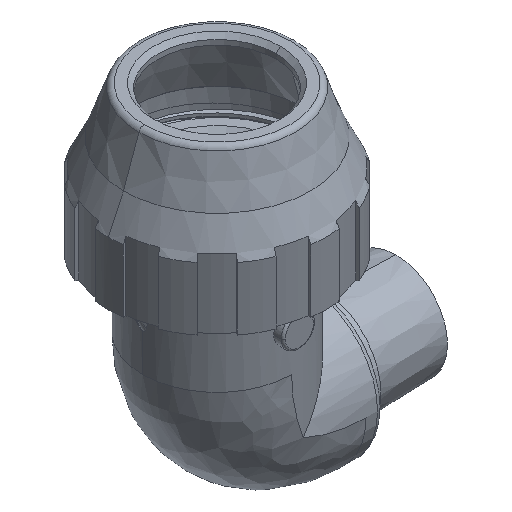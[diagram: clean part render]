
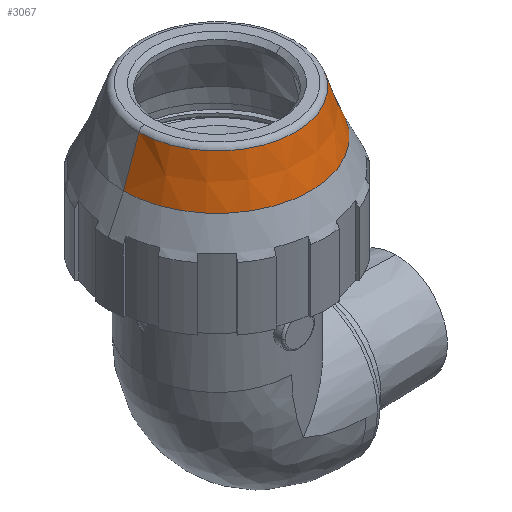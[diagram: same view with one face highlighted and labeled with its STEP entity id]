
A CAD part, isometric view. The second image highlights one B-rep face of the part: STEP entity #3067.
In plain terms, the highlighted conical face has half-angle 19.587 degrees and reference radius 13.423 mm.
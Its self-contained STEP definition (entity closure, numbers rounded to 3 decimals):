
#508 = DIRECTION ( 'NONE',  ( 0.335, 0., -0.942 ) ) ;
#589 = FACE_OUTER_BOUND ( 'NONE', #2539, .T. ) ;
#663 = DIRECTION ( 'NONE',  ( -1., 0., 0. ) ) ;
#732 = VECTOR ( 'NONE', #5536, 1000. ) ;
#1142 = ORIENTED_EDGE ( 'NONE', *, *, #5032, .T. ) ;
#1252 = CARTESIAN_POINT ( 'NONE',  ( 13.423, 0., 24.828 ) ) ;
#1352 = DIRECTION ( 'NONE',  ( 0., 0., 1. ) ) ;
#1371 = CONICAL_SURFACE ( 'NONE', #6494, 13.423, 0.342 ) ;
#1982 = EDGE_CURVE ( 'NONE', #3050, #2395, #4820, .T. ) ;
#2395 = VERTEX_POINT ( 'NONE', #3778 ) ;
#2539 = EDGE_LOOP ( 'NONE', ( #8376, #6263, #7128, #1142 ) ) ;
#2598 = VECTOR ( 'NONE', #508, 1000. ) ;
#2806 = CARTESIAN_POINT ( 'NONE',  ( -13.659, 0., 24.163 ) ) ;
#3050 = VERTEX_POINT ( 'NONE', #2806 ) ;
#3067 = ADVANCED_FACE ( 'NONE', ( #589 ), #1371, .T. ) ;
#3222 = CARTESIAN_POINT ( 'NONE',  ( 16.34, 0., 16.63 ) ) ;
#3409 = CARTESIAN_POINT ( 'NONE',  ( -13.423, 0., 24.828 ) ) ;
#3778 = CARTESIAN_POINT ( 'NONE',  ( -16.34, 0., 16.63 ) ) ;
#4209 = CARTESIAN_POINT ( 'NONE',  ( 0., 0., 24.163 ) ) ;
#4276 = DIRECTION ( 'NONE',  ( 0., 0., -1. ) ) ;
#4820 = LINE ( 'NONE', #3409, #732 ) ;
#4939 = DIRECTION ( 'NONE',  ( 1., 0., 0. ) ) ;
#5032 = EDGE_CURVE ( 'NONE', #2395, #6030, #8466, .T. ) ;
#5257 = CIRCLE ( 'NONE', #6974, 13.659 ) ;
#5526 = VERTEX_POINT ( 'NONE', #8861 ) ;
#5536 = DIRECTION ( 'NONE',  ( -0.335, 0., -0.942 ) ) ;
#5662 = CARTESIAN_POINT ( 'NONE',  ( 0., 0., 16.63 ) ) ;
#5710 = CARTESIAN_POINT ( 'NONE',  ( 0., 0., 24.828 ) ) ;
#6030 = VERTEX_POINT ( 'NONE', #3222 ) ;
#6184 = LINE ( 'NONE', #1252, #2598 ) ;
#6198 = EDGE_CURVE ( 'NONE', #5526, #6030, #6184, .T. ) ;
#6263 = ORIENTED_EDGE ( 'NONE', *, *, #8799, .T. ) ;
#6384 = DIRECTION ( 'NONE',  ( 1., 0., 0. ) ) ;
#6494 = AXIS2_PLACEMENT_3D ( 'NONE', #5710, #4276, #663 ) ;
#6974 = AXIS2_PLACEMENT_3D ( 'NONE', #4209, #9268, #4939 ) ;
#7128 = ORIENTED_EDGE ( 'NONE', *, *, #1982, .T. ) ;
#7175 = AXIS2_PLACEMENT_3D ( 'NONE', #5662, #1352, #6384 ) ;
#8376 = ORIENTED_EDGE ( 'NONE', *, *, #6198, .F. ) ;
#8466 = CIRCLE ( 'NONE', #7175, 16.34 ) ;
#8799 = EDGE_CURVE ( 'NONE', #5526, #3050, #5257, .T. ) ;
#8861 = CARTESIAN_POINT ( 'NONE',  ( 13.659, 0., 24.163 ) ) ;
#9268 = DIRECTION ( 'NONE',  ( 0., 0., -1. ) ) ;
